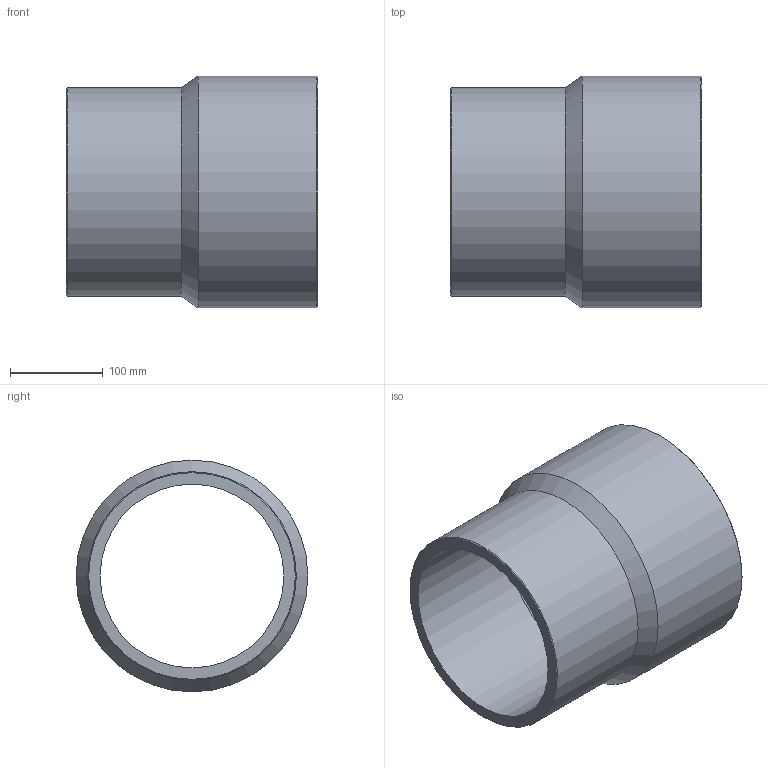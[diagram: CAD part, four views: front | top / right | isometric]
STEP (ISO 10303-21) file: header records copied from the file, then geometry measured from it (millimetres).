
FILE_DESCRIPTION(/* description */ ('Unknown'),/* implementation_level */ '2;1');
FILE_NAME(/* name */ 'RP250225B',/* time_stamp */ '2021-09-17T12:21:42+02:00',/* author */ ('Unknown'),/* organization */ ('Unknown'),/* preprocessor_version */ 'ST-DEVELOPER v16.7',/* originating_system */ 'Solid Edge',/* authorisation */ 'Unknown');
FILE_SCHEMA (('AUTOMOTIVE_DESIGN {1 0 10303 214 3 1 1}'));
Length unit declared in the file: millimetre
Products named in the file (1): RP250225B
Bounding box: 271 x 250 x 250 mm (x, y, z)
Volume: 2780271 mm3; surface area: 404098.1 mm2
Topology: 1 solids, 1 shells, 10 faces, 19 edges, 11 vertices
Faces by surface type: cylinder 4, cone 4, plane 2
Full cylindrical faces by diameter (mm): 198.2 x1, 220.4 x1, 225 x1, 250 x1
Entity records: 238 total; most frequent: DIRECTION 42, CARTESIAN_POINT 31, AXIS2_PLACEMENT_3D 21, ORIENTED_EDGE 20, EDGE_LOOP 20, FACE_BOUND 20, EDGE_CURVE 10, VERTEX_POINT 10
